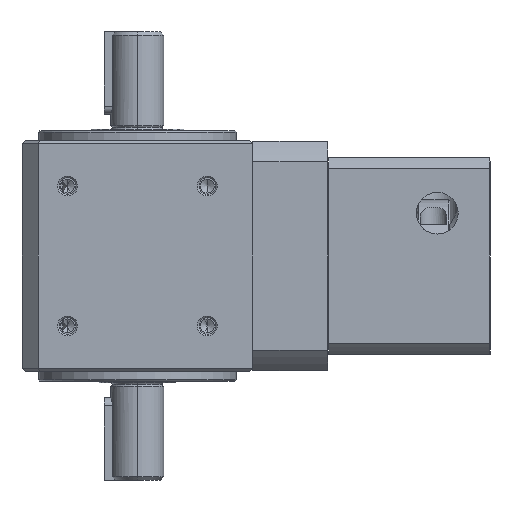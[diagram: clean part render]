
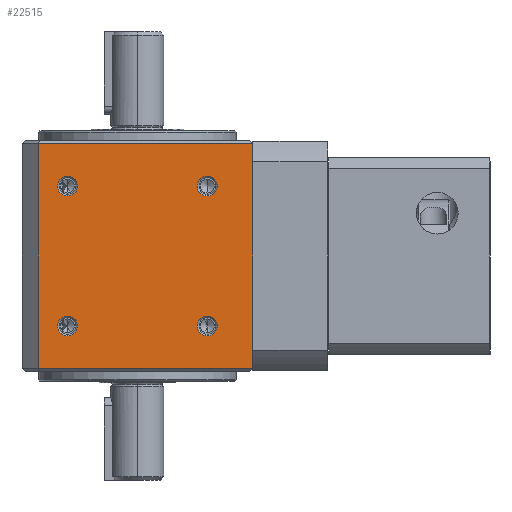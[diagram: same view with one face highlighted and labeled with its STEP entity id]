
A CAD part, front view. The second image highlights one B-rep face of the part: STEP entity #22515.
In plain terms, the highlighted planar face has unit normal (0, -1, 0).
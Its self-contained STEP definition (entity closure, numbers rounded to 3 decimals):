
#2791 = CIRCLE ( 'NONE', #2837, 3. ) ;
#2828 = CARTESIAN_POINT ( 'NONE',  ( -21.213, -35., 19.787 ) ) ;
#2834 = DIRECTION ( 'NONE',  ( 0., 0., -1. ) ) ;
#2835 = DIRECTION ( 'NONE',  ( 0., -1., 0. ) ) ;
#2836 = CARTESIAN_POINT ( 'NONE',  ( -21.213, -35., 16.787 ) ) ;
#2837 = AXIS2_PLACEMENT_3D ( 'NONE', #2836, #2835, #2834 ) ;
#2838 = CARTESIAN_POINT ( 'NONE',  ( -21.213, -35., 13.787 ) ) ;
#2936 = CARTESIAN_POINT ( 'NONE',  ( -21.213, -35., 62.213 ) ) ;
#3039 = CARTESIAN_POINT ( 'NONE',  ( -21.213, -35., 56.213 ) ) ;
#3045 = CARTESIAN_POINT ( 'NONE',  ( -21.213, -35., 59.213 ) ) ;
#3048 = AXIS2_PLACEMENT_3D ( 'NONE', #3045, #3070, #3069 ) ;
#3069 = DIRECTION ( 'NONE',  ( 0., 0., -1. ) ) ;
#3070 = DIRECTION ( 'NONE',  ( 0., -1., 0. ) ) ;
#3071 = CIRCLE ( 'NONE', #3048, 3. ) ;
#5063 = VERTEX_POINT ( 'NONE', #24539 ) ;
#5065 = VERTEX_POINT ( 'NONE', #24528 ) ;
#5067 = EDGE_CURVE ( 'NONE', #5065, #5063, #24571, .T. ) ;
#11508 = DIRECTION ( 'NONE',  ( 0., 0., -1. ) ) ;
#11509 = DIRECTION ( 'NONE',  ( 0., -1., 0. ) ) ;
#11510 = CARTESIAN_POINT ( 'NONE',  ( 21.213, -35., 16.787 ) ) ;
#11514 = CARTESIAN_POINT ( 'NONE',  ( 21.213, -35., 13.787 ) ) ;
#11519 = AXIS2_PLACEMENT_3D ( 'NONE', #11510, #11509, #11508 ) ;
#11535 = CIRCLE ( 'NONE', #11519, 3. ) ;
#11551 = CARTESIAN_POINT ( 'NONE',  ( 21.213, -35., 19.787 ) ) ;
#12196 = DIRECTION ( 'NONE',  ( 0., 0., -1. ) ) ;
#12197 = DIRECTION ( 'NONE',  ( 0., -1., 0. ) ) ;
#12198 = CARTESIAN_POINT ( 'NONE',  ( 21.213, -35., 16.787 ) ) ;
#12199 = CIRCLE ( 'NONE', #12203, 3. ) ;
#12203 = AXIS2_PLACEMENT_3D ( 'NONE', #12198, #12197, #12196 ) ;
#13196 = CARTESIAN_POINT ( 'NONE',  ( -30., -35., 72. ) ) ;
#13256 = FACE_BOUND ( 'NONE', #28633, .T. ) ;
#13271 = AXIS2_PLACEMENT_3D ( 'NONE', #13276, #13294, #13293 ) ;
#13276 = CARTESIAN_POINT ( 'NONE',  ( -35., -35., 76. ) ) ;
#13284 = DIRECTION ( 'NONE',  ( 0., 0., -1. ) ) ;
#13285 = DIRECTION ( 'NONE',  ( 0., -1., 0. ) ) ;
#13286 = CARTESIAN_POINT ( 'NONE',  ( 21.213, -35., 59.213 ) ) ;
#13287 = AXIS2_PLACEMENT_3D ( 'NONE', #13286, #13285, #13284 ) ;
#13293 = DIRECTION ( 'NONE',  ( 0., 0., 1. ) ) ;
#13294 = DIRECTION ( 'NONE',  ( 0., 1., 0. ) ) ;
#13295 = CIRCLE ( 'NONE', #13287, 3. ) ;
#13298 = PLANE ( 'NONE',  #13271 ) ;
#13300 = FACE_BOUND ( 'NONE', #28635, .T. ) ;
#13304 = FACE_BOUND ( 'NONE', #22519, .T. ) ;
#13307 = FACE_OUTER_BOUND ( 'NONE', #22481, .T. ) ;
#13308 = FACE_BOUND ( 'NONE', #22514, .T. ) ;
#13313 = DIRECTION ( 'NONE',  ( -1., 0., 0. ) ) ;
#13314 = VECTOR ( 'NONE', #13313, 1000. ) ;
#13315 = CARTESIAN_POINT ( 'NONE',  ( -30., -35., 72. ) ) ;
#13316 = CARTESIAN_POINT ( 'NONE',  ( 35.001, -35., 4. ) ) ;
#13318 = DIRECTION ( 'NONE',  ( 0., 0., -1. ) ) ;
#13319 = VECTOR ( 'NONE', #13318, 1000. ) ;
#13320 = CARTESIAN_POINT ( 'NONE',  ( 35.001, -35., 73. ) ) ;
#13321 = LINE ( 'NONE', #13320, #13319 ) ;
#13322 = CARTESIAN_POINT ( 'NONE',  ( 35.001, -35., 72. ) ) ;
#13325 = LINE ( 'NONE', #13315, #13314 ) ;
#13350 = DIRECTION ( 'NONE',  ( 0., 0., -1. ) ) ;
#13351 = DIRECTION ( 'NONE',  ( 0., -1., 0. ) ) ;
#13352 = CIRCLE ( 'NONE', #13358, 3. ) ;
#13354 = DIRECTION ( 'NONE',  ( 0., 0., -1. ) ) ;
#13355 = VECTOR ( 'NONE', #13354, 1000. ) ;
#13356 = CARTESIAN_POINT ( 'NONE',  ( -30., -35., 76. ) ) ;
#13358 = AXIS2_PLACEMENT_3D ( 'NONE', #13366, #13351, #13350 ) ;
#13359 = DIRECTION ( 'NONE',  ( 1., 0., 0. ) ) ;
#13360 = VECTOR ( 'NONE', #13359, 1000. ) ;
#13361 = CARTESIAN_POINT ( 'NONE',  ( 35.001, -35., 4. ) ) ;
#13362 = LINE ( 'NONE', #13361, #13360 ) ;
#13365 = LINE ( 'NONE', #13356, #13355 ) ;
#13366 = CARTESIAN_POINT ( 'NONE',  ( -21.213, -35., 59.213 ) ) ;
#15836 = DIRECTION ( 'NONE',  ( 0., 0., -1. ) ) ;
#15837 = DIRECTION ( 'NONE',  ( 0., -1., 0. ) ) ;
#15843 = CIRCLE ( 'NONE', #15854, 3. ) ;
#15844 = CARTESIAN_POINT ( 'NONE',  ( -21.213, -35., 16.787 ) ) ;
#15854 = AXIS2_PLACEMENT_3D ( 'NONE', #15844, #15837, #15836 ) ;
#15938 = CARTESIAN_POINT ( 'NONE',  ( -30., -35., 4. ) ) ;
#18061 = EDGE_CURVE ( 'NONE', #18071, #18068, #2791, .T. ) ;
#18068 = VERTEX_POINT ( 'NONE', #2838 ) ;
#18071 = VERTEX_POINT ( 'NONE', #2828 ) ;
#18147 = VERTEX_POINT ( 'NONE', #2936 ) ;
#18155 = VERTEX_POINT ( 'NONE', #3039 ) ;
#18160 = EDGE_CURVE ( 'NONE', #18147, #18155, #3071, .T. ) ;
#21607 = EDGE_CURVE ( 'NONE', #21626, #21610, #11535, .T. ) ;
#21610 = VERTEX_POINT ( 'NONE', #11514 ) ;
#21626 = VERTEX_POINT ( 'NONE', #11551 ) ;
#21899 = EDGE_CURVE ( 'NONE', #21610, #21626, #12199, .T. ) ;
#22479 = ORIENTED_EDGE ( 'NONE', *, *, #22545, .T. ) ;
#22480 = VERTEX_POINT ( 'NONE', #13196 ) ;
#22481 = EDGE_LOOP ( 'NONE', ( #22479, #22538, #22543, #22530 ) ) ;
#22514 = EDGE_LOOP ( 'NONE', ( #22578, #28608 ) ) ;
#22515 = ADVANCED_FACE ( 'NONE', ( #13304, #13308, #13300, #13256, #13307 ), #13298, .F. ) ;
#22519 = EDGE_LOOP ( 'NONE', ( #22521, #22576 ) ) ;
#22521 = ORIENTED_EDGE ( 'NONE', *, *, #22524, .F. ) ;
#22524 = EDGE_CURVE ( 'NONE', #5063, #5065, #13295, .T. ) ;
#22530 = ORIENTED_EDGE ( 'NONE', *, *, #22535, .T. ) ;
#22533 = EDGE_CURVE ( 'NONE', #22534, #22542, #13321, .T. ) ;
#22534 = VERTEX_POINT ( 'NONE', #13322 ) ;
#22535 = EDGE_CURVE ( 'NONE', #22534, #22480, #13325, .T. ) ;
#22538 = ORIENTED_EDGE ( 'NONE', *, *, #22541, .T. ) ;
#22541 = EDGE_CURVE ( 'NONE', #28631, #22542, #13362, .T. ) ;
#22542 = VERTEX_POINT ( 'NONE', #13316 ) ;
#22543 = ORIENTED_EDGE ( 'NONE', *, *, #22533, .F. ) ;
#22544 = ORIENTED_EDGE ( 'NONE', *, *, #18160, .F. ) ;
#22545 = EDGE_CURVE ( 'NONE', #22480, #28631, #13365, .T. ) ;
#22546 = EDGE_CURVE ( 'NONE', #18155, #18147, #13352, .T. ) ;
#22576 = ORIENTED_EDGE ( 'NONE', *, *, #5067, .F. ) ;
#22578 = ORIENTED_EDGE ( 'NONE', *, *, #21899, .F. ) ;
#24528 = CARTESIAN_POINT ( 'NONE',  ( 21.213, -35., 62.213 ) ) ;
#24539 = CARTESIAN_POINT ( 'NONE',  ( 21.213, -35., 56.213 ) ) ;
#24561 = DIRECTION ( 'NONE',  ( 0., 0., -1. ) ) ;
#24562 = DIRECTION ( 'NONE',  ( 0., -1., 0. ) ) ;
#24563 = CARTESIAN_POINT ( 'NONE',  ( 21.213, -35., 59.213 ) ) ;
#24564 = AXIS2_PLACEMENT_3D ( 'NONE', #24563, #24562, #24561 ) ;
#24571 = CIRCLE ( 'NONE', #24564, 3. ) ;
#28541 = ORIENTED_EDGE ( 'NONE', *, *, #18061, .F. ) ;
#28543 = ORIENTED_EDGE ( 'NONE', *, *, #22546, .F. ) ;
#28575 = ORIENTED_EDGE ( 'NONE', *, *, #28585, .F. ) ;
#28585 = EDGE_CURVE ( 'NONE', #18068, #18071, #15843, .T. ) ;
#28608 = ORIENTED_EDGE ( 'NONE', *, *, #21607, .F. ) ;
#28631 = VERTEX_POINT ( 'NONE', #15938 ) ;
#28633 = EDGE_LOOP ( 'NONE', ( #28543, #22544 ) ) ;
#28635 = EDGE_LOOP ( 'NONE', ( #28575, #28541 ) ) ;
